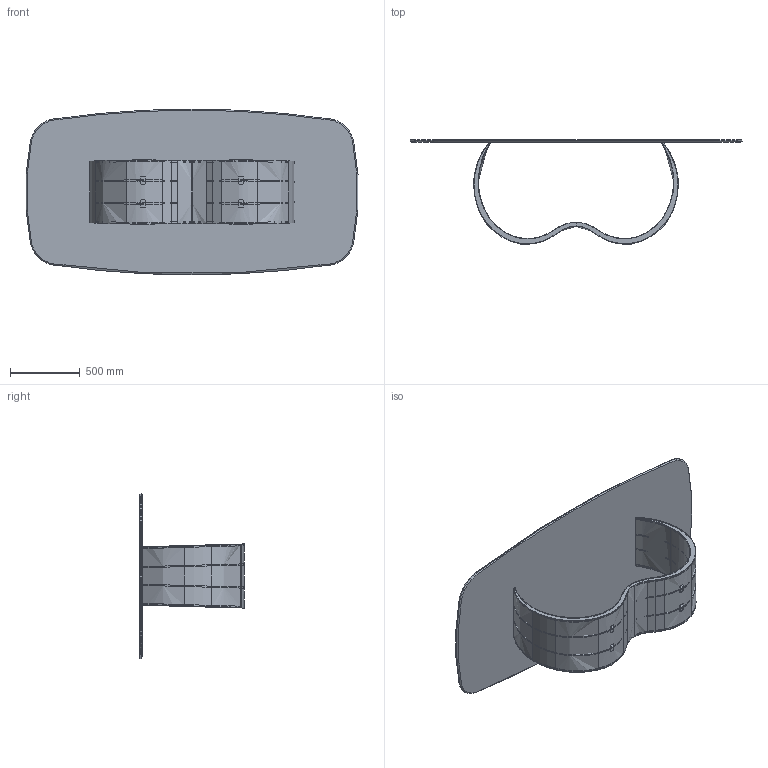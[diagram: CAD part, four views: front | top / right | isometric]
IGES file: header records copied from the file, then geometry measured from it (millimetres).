
Start section: SolidWorks IGES file using analytic representation for surfaces
Global section: file name: Y:\eforma\TECNICO\SOLIDWORKS\E-FORMA\1-TAVOLI\ALISEI 240-300\02 parts\AI42C_Alisei_239x119_Ceramic Shaped.IGS; native system: SolidWorks 2022; preprocessor: SolidWorks 2022; author: eforma.tech; date: 240801.145034; units: millimetre
Bounding box: 2382.15 x 747 x 1190 mm (x, y, z)
Volume: 48968525.5 mm3; surface area: 16068268.3 mm2
Topology: 18 solids, 18 shells, 1059 faces, 2925 edges, 1894 vertices
Faces by surface type: bspline 552, plane 324, revolution 183
